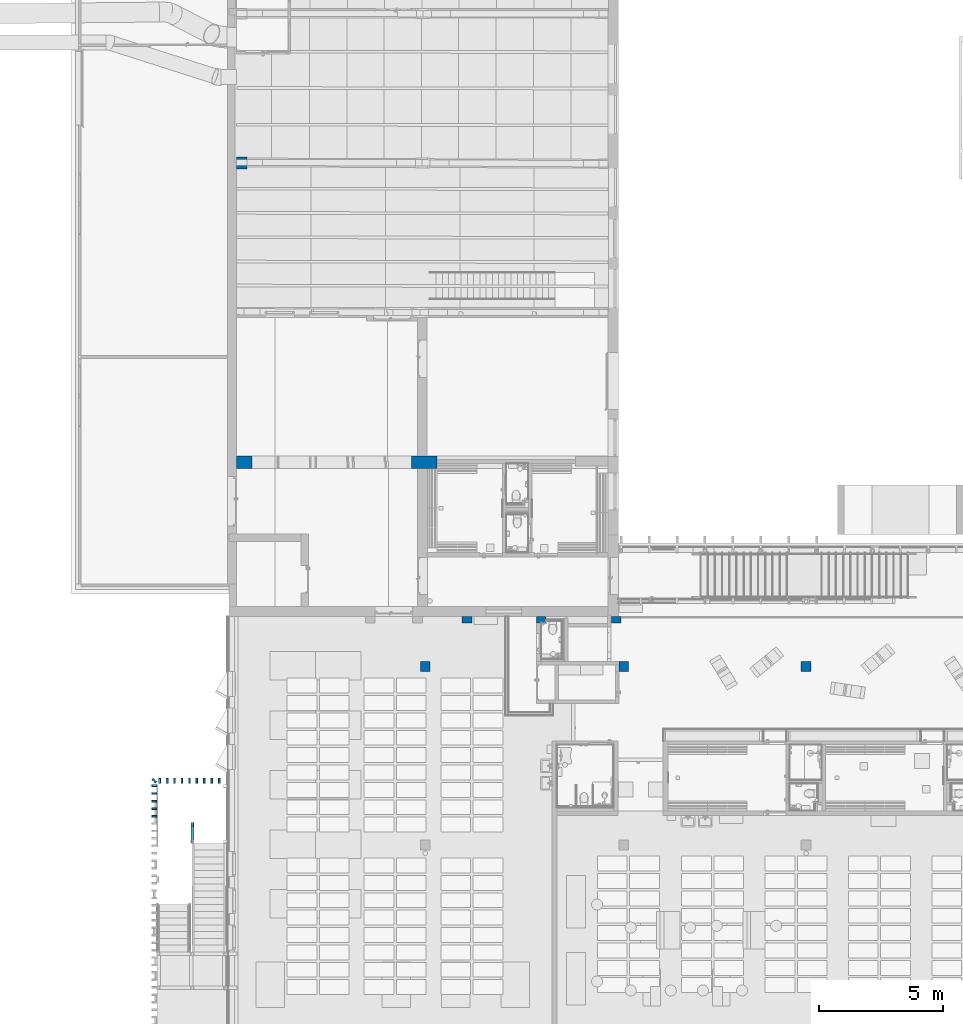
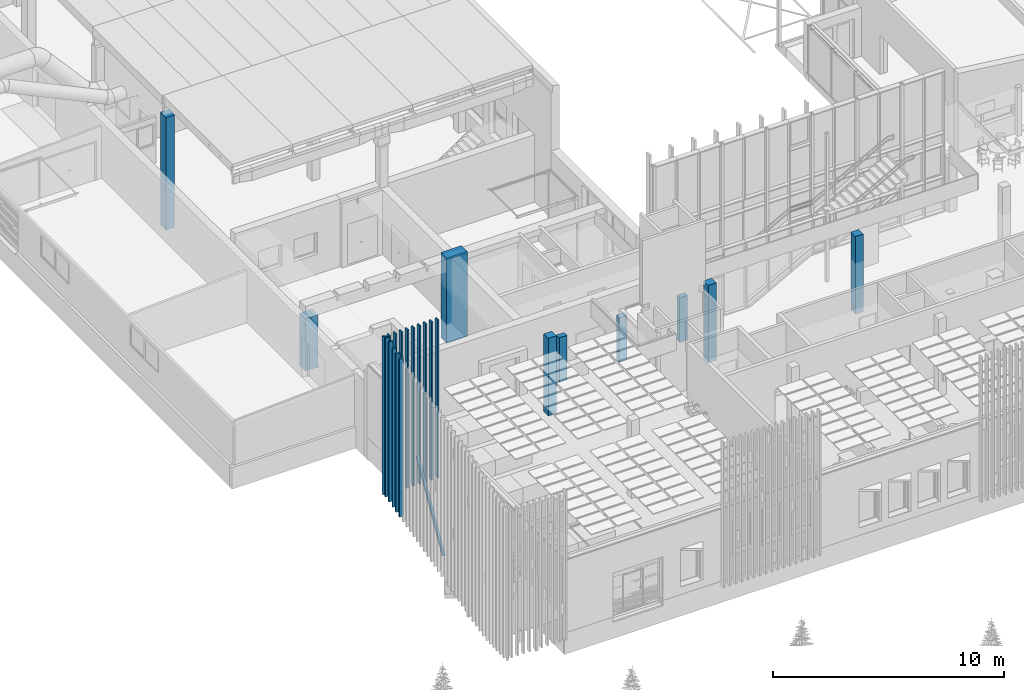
# One storey, part 14 of 301: 26 columns.
"""IFC2X3 building model written with IfcOpenShell, lengths in millimetres."""

from ifc_helpers import new_model, entity, si_unit, converted_unit, derived_unit, money_unit, direction, frame, origin_with_axes, place, context, subcontext, project, spatial, faceted_brep, material, type_object, element, save


model = new_model("IFC2X3")

# Units and contexts
model_context = context("Model", 3, precision=0.01, world=origin_with_axes(), true_north=direction((0.0, 1.0)))
body_context = subcontext(model_context, "Body", "Model", "MODEL_VIEW")
ifc_project = project(units=[si_unit("LENGTHUNIT", "METRE", prefix="MILLI"), si_unit("AREAUNIT", "SQUARE_METRE"), si_unit("VOLUMEUNIT", "CUBIC_METRE"), converted_unit("PLANEANGLEUNIT", "DEGREE", entity("IfcPlaneAngleMeasure", 0.0174532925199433), si_unit("PLANEANGLEUNIT", "RADIAN"), dimensions=[0, 0, 0, 0, 0, 0, 0]), money_unit("EUR"), converted_unit("TIMEUNIT", "Year", entity("IfcTimeMeasure", 31557600.0), si_unit("TIMEUNIT", "SECOND"), dimensions=[0, 0, 1, 0, 0, 0, 0]), si_unit("MASSUNIT", "GRAM", prefix="KILO"), si_unit("THERMODYNAMICTEMPERATUREUNIT", "DEGREE_CELSIUS"), si_unit("LUMINOUSINTENSITYUNIT", "LUMEN"), si_unit("ENERGYUNIT", "JOULE", prefix="MEGA"), derived_unit("THERMALCONDUCTANCEUNIT", [(si_unit("POWERUNIT", "WATT"), 1), (si_unit("LENGTHUNIT", "METRE"), -1), (si_unit("THERMODYNAMICTEMPERATUREUNIT", "KELVIN"), -1)]), derived_unit("SPECIFICHEATCAPACITYUNIT", [(si_unit("ENERGYUNIT", "JOULE"), 1), (si_unit("MASSUNIT", "GRAM", prefix="KILO"), -1), (si_unit("THERMODYNAMICTEMPERATUREUNIT", "KELVIN"), -1)]), derived_unit("MASSDENSITYUNIT", [(si_unit("MASSUNIT", "GRAM", prefix="KILO"), 1), (si_unit("VOLUMEUNIT", "CUBIC_METRE"), -1)])], contexts=[model_context])

# Site, building, storey
site_placement = place(None, frame((0.0, 0.0, 8650.0), z_axis=(0.0, 0.0, 1.0), x_axis=(1.0, 0.0, 0.0)))
site = spatial("IfcSite", under=ifc_project, at=site_placement, Name="43301:001:0844", CompositionType="ELEMENT")
building_placement = place(site_placement, origin_with_axes())
building = spatial("IfcBuilding", under=site, at=building_placement, Name="Kuressaare Ametikooli tuulikute mehaanikute õppekorpus", CompositionType="ELEMENT")
storey_placement = place(building_placement, origin_with_axes())
storey = spatial("IfcBuildingStorey", under=building, at=storey_placement, Name="1.korrus", CompositionType="ELEMENT", Elevation=0.0)

# Columns
ifc_material_1 = material(Name="GENEERILINE - KONSTRUKTRIOON")
column_type_1 = type_object("IfcColumnType", Name="GENEERILINE - KONSTRUKTRIOON 200 x 75", PredefinedType="NOTDEFINED")
column_1_placement = place(storey_placement, frame((84946.22662386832, 18966.94166850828, 2323.050805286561), z_axis=(0.0, 0.0, 1.0), x_axis=(-1.0, 0.0, 0.0)))
element("IfcColumn", 1, at=column_1_placement, inside=storey, type_object=column_type_1, material=ifc_material_1, Name="Varjestus_viltu", context=body_context, shape_type="Brep", body=[
    faceted_brep([(100.0000000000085, 37.50000000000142, 8376.794685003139), (100.0000000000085, 37.50000000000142, 0.0), (-99.99999999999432, 37.50000000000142, 0.0), (-99.99999999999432, 37.50000000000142, 8376.794685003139), (100.0000000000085, -37.49999999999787, 8370.233035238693), (100.0000000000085, -37.49999999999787, 0.0), (-99.99999999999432, -37.49999999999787, 0.0), (-99.99999999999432, -37.49999999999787, 8370.233035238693)], [[[0, 1, 2, 3]], [[4, 5, 1, 0]], [[2, 1, 5, 6]], [[3, 2, 6, 7]], [[4, 0, 3, 7]], [[7, 6, 5, 4]]]),
])
column_2_placement = place(storey_placement, frame((87561.75963245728, 19163.83737729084, 2284.330369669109), z_axis=(0.0, 0.0, 1.0), x_axis=(0.0, -1.0, 0.0)))
element("IfcColumn", 2, at=column_2_placement, inside=storey, type_object=column_type_1, material=ifc_material_1, Name="Varjestus_viltu", context=body_context, shape_type="Brep", body=[
    faceted_brep([(99.99999999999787, 37.49999999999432, 8370.61312005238), (99.99999999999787, 37.49999999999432, 0.0), (-100.0000000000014, 37.49999999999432, 0.0), (-100.0000000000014, 37.49999999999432, 8370.61312005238), (99.99999999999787, -37.50000000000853, 8364.051470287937), (99.99999999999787, -37.50000000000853, 0.0), (-100.0000000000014, -37.50000000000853, 0.0), (-100.0000000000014, -37.50000000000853, 8364.051470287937)], [[[0, 1, 2, 3]], [[4, 5, 1, 0]], [[2, 1, 5, 6]], [[3, 2, 6, 7]], [[4, 0, 3, 7]], [[7, 6, 5, 4]]]),
])
column_3_placement = place(storey_placement, frame((84946.22662386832, 17740.4180838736, 1989.578063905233), z_axis=(0.0, 0.0, 1.0), x_axis=(-1.0, 0.0, 0.0)))
element("IfcColumn", 3, at=column_3_placement, inside=storey, type_object=column_type_1, material=ifc_material_1, Name="Varjestus_viltu", context=body_context, shape_type="Brep", body=[
    faceted_brep([(100.0000000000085, -37.49999999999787, 8373.60033512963), (-99.99999999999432, -37.49999999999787, 8373.600327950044), (-99.99999999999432, -37.49999999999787, 0.0), (100.0000000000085, -37.49999999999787, 0.0), (-99.99999999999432, 37.50000000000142, 8353.50413851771), (100.0000000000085, 37.50000000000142, 8353.504145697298), (-99.99999999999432, 37.50000000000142, 0.0), (100.0000000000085, 37.50000000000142, 0.0)], [[[0, 1, 2, 3]], [[4, 1, 0, 5]], [[1, 4, 6, 2]], [[2, 6, 7, 3]], [[5, 0, 3, 7]], [[4, 5, 7, 6]]]),
])
column_4_placement = place(storey_placement, frame((84946.22662386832, 18040.4180838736, 2069.965056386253), z_axis=(0.0, 0.0, 1.0), x_axis=(-1.0, 0.0, 0.0)))
element("IfcColumn", 4, at=column_4_placement, inside=storey, type_object=column_type_1, material=ifc_material_1, Name="Varjestus_viltu", context=body_context, shape_type="Brep", body=[
    faceted_brep([(100.0000000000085, -37.49999999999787, 8373.598100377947), (-99.99999999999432, -37.49999999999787, 8373.598093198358), (-99.99999999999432, -37.49999999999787, 0.0), (100.0000000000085, -37.49999999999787, 0.0), (-99.99999999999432, 37.50000000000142, 8353.501903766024), (100.0000000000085, 37.50000000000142, 8353.50191094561), (-99.99999999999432, 37.50000000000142, 0.0), (100.0000000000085, 37.50000000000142, 0.0)], [[[0, 1, 2, 3]], [[4, 1, 0, 5]], [[1, 4, 6, 2]], [[2, 6, 7, 3]], [[5, 0, 3, 7]], [[4, 5, 7, 6]]]),
])
column_5_placement = place(storey_placement, frame((84946.22662386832, 18340.4180838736, 2150.352048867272), z_axis=(0.0, 0.0, 1.0), x_axis=(-1.0, 0.0, 0.0)))
element("IfcColumn", 5, at=column_5_placement, inside=storey, type_object=column_type_1, material=ifc_material_1, Name="Varjestus_viltu", context=body_context, shape_type="Brep", body=[
    faceted_brep([(100.0000000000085, -37.49999999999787, 8373.595865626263), (-99.99999999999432, -37.49999999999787, 8373.595858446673), (-99.99999999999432, -37.49999999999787, 0.0), (100.0000000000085, -37.49999999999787, 0.0), (-99.99999999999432, 37.50000000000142, 8353.499669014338), (100.0000000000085, 37.50000000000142, 8353.49967619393), (-99.99999999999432, 37.50000000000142, 0.0), (100.0000000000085, 37.50000000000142, 0.0)], [[[0, 1, 2, 3]], [[4, 1, 0, 5]], [[1, 4, 6, 2]], [[2, 6, 7, 3]], [[5, 0, 3, 7]], [[4, 5, 7, 6]]]),
])
for number, where, z_axis, x_axis in (
    (6, (85161.75963245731, 19163.83739147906, 2284.330369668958), (0.0, 0.0, 1.0), (0.0, -1.0, 0.0)),
    (7, (85461.7596324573, 19163.83739147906, 2284.330369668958), (0.0, 0.0, 1.0), (0.0, -1.0, 0.0)),
    (8, (85761.7596324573, 19163.8373366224, 2284.330369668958), (0.0, 0.0, 1.0), (0.0, -1.0, 0.0)),
    (9, (86061.7596324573, 19163.8373366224, 2284.330369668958), (0.0, 0.0, 1.0), (0.0, -1.0, 0.0)),
    (10, (86361.7596324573, 19163.8373366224, 2284.330369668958), (0.0, 0.0, 1.0), (0.0, -1.0, 0.0)),
):
    element("IfcColumn", number, at=place(storey_placement, frame(where, z_axis=z_axis, x_axis=x_axis)), inside=storey, type_object=column_type_1, material=ifc_material_1, Name="Varjestus_viltu", context=body_context, shape_type="Brep", body=[
        faceted_brep([(99.99999999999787, 37.49999999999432, 8370.613120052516), (99.99999999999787, 37.49999999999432, 0.0), (-100.0000000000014, 37.49999999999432, 0.0), (-100.0000000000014, 37.49999999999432, 8370.613120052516), (99.99999999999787, -37.50000000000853, 8364.051470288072), (99.99999999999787, -37.50000000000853, 0.0), (-100.0000000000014, -37.50000000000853, 0.0), (-100.0000000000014, -37.50000000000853, 8364.051470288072)], [[[0, 1, 2, 3]], [[4, 5, 1, 0]], [[2, 1, 5, 6]], [[3, 2, 6, 7]], [[4, 0, 3, 7]], [[7, 6, 5, 4]]]),
    ])
for number, where, z_axis, x_axis in (
    (11, (86661.7596324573, 19163.83738634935, 2284.330369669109), (0.0, 0.0, 1.0), (0.0, -1.0, 0.0)),
    (12, (86961.75963245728, 19163.83738634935, 2284.330369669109), (0.0, 0.0, 1.0), (0.0, -1.0, 0.0)),
):
    element("IfcColumn", number, at=place(storey_placement, frame(where, z_axis=z_axis, x_axis=x_axis)), inside=storey, type_object=column_type_1, material=ifc_material_1, Name="Varjestus_viltu", context=body_context, shape_type="Brep", body=[
        faceted_brep([(99.99999999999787, 37.49999999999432, 8370.61312005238), (99.99999999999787, 37.49999999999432, 0.0), (-100.0000000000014, 37.49999999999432, 0.0), (-100.0000000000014, 37.49999999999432, 8370.61312005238), (99.99999999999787, -37.50000000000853, 8364.051470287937), (99.99999999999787, -37.50000000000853, 0.0), (-100.0000000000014, -37.50000000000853, 0.0), (-100.0000000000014, -37.50000000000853, 8364.051470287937)], [[[0, 1, 2, 3]], [[4, 5, 1, 0]], [[2, 1, 5, 6]], [[3, 2, 6, 7]], [[4, 0, 3, 7]], [[7, 6, 5, 4]]]),
    ])
column_6_placement = place(storey_placement, frame((84943.45380628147, 19166.61020906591, 2284.330369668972), z_axis=(0.0, 0.0, 1.0), x_axis=(0.7071067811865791, -0.7071067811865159, 0.0)))
element("IfcColumn", 13, at=column_6_placement, inside=storey, type_object=column_type_1, material=ifc_material_1, Name="Varjestus_viltu", context=body_context, shape_type="Brep", body=[
    faceted_brep([(99.99999999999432, 37.49999999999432, 8370.61311241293), (99.99999999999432, 37.49999999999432, 0.0), (-100.0000000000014, 37.49999999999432, 0.0), (-100.0000000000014, 37.49999999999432, 8370.61311241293), (100.0000000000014, -37.49999999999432, 8364.051462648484), (100.0000000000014, -37.49999999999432, 0.0), (-100.0000000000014, -37.49999999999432, 0.0), (-100.0000000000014, -37.49999999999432, 8364.051462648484)], [[[0, 1, 2, 3]], [[4, 5, 1, 0]], [[2, 1, 5, 6]], [[3, 2, 6, 7]], [[4, 0, 3, 7]], [[7, 6, 5, 4]]]),
])
column_7_placement = place(storey_placement, frame((87261.75963245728, 19163.8373818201, 2284.330369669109), z_axis=(0.0, 0.0, 1.0), x_axis=(0.0, -1.0, 0.0)))
element("IfcColumn", 14, at=column_7_placement, inside=storey, type_object=column_type_1, material=ifc_material_1, Name="Varjestus_viltu", context=body_context, shape_type="Brep", body=[
    faceted_brep([(99.99999999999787, 37.49999999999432, 8370.61312005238), (99.99999999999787, 37.49999999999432, 0.0), (-100.0000000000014, 37.49999999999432, 0.0), (-100.0000000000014, 37.49999999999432, 8370.61312005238), (99.99999999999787, -37.50000000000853, 8364.051470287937), (99.99999999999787, -37.50000000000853, 0.0), (-100.0000000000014, -37.50000000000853, 0.0), (-100.0000000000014, -37.50000000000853, 8364.051470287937)], [[[0, 1, 2, 3]], [[4, 5, 1, 0]], [[2, 1, 5, 6]], [[3, 2, 6, 7]], [[4, 0, 3, 7]], [[7, 6, 5, 4]]]),
])
column_8_placement = place(storey_placement, frame((84946.22662386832, 18653.67987619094, 2236.232087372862), z_axis=(0.0, 0.0, 1.0), x_axis=(-1.0, 0.0, 0.0)))
element("IfcColumn", 15, at=column_8_placement, inside=storey, type_object=column_type_1, material=ifc_material_1, Name="Varjestus_viltu", context=body_context, shape_type="Brep", body=[
    faceted_brep([(100.0000000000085, 37.50000000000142, 8463.613402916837), (100.0000000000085, 37.50000000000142, 0.0), (-99.99999999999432, 37.50000000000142, 0.0), (-99.99999999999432, 37.50000000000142, 8463.613402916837), (100.0000000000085, -37.49999999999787, 8457.051753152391), (100.0000000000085, -37.49999999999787, 0.0), (-99.99999999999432, -37.49999999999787, 0.0), (-99.99999999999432, -37.49999999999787, 8457.051753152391)], [[[0, 1, 2, 3]], [[4, 5, 1, 0]], [[2, 1, 5, 6]], [[3, 2, 6, 7]], [[4, 0, 3, 7]], [[7, 6, 5, 4]]]),
])
ifc_material_2 = material(Name="Puit - Liimpuit")
column_type_2 = type_object("IfcColumnType", Name="Puit - Liimpuit 400 x 400", PredefinedType="NOTDEFINED")
for number, where, z_axis, x_axis in (
    (16, (103867.9521417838, 23774.0689239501, 0.0), (0.0, 0.0, 1.0), (1.0, 0.0, 0.0)),
    (17, (111217.9493746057, 23774.0689239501, 0.0), (0.0, 0.0, 1.0), (1.0, 0.0, 0.0)),
    (18, (95868.06835714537, 23774.0689239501, 0.0), (0.0, 0.0, 1.0), (1.0, 0.0, 0.0)),
):
    element("IfcColumn", number, at=place(storey_placement, frame(where, z_axis=z_axis, x_axis=x_axis)), inside=storey, type_object=column_type_2, material=ifc_material_2, context=body_context, shape_type="Brep", body=[
        faceted_brep([(-200.0000000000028, -199.9999999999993, 4099.999999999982), (-200.0000000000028, -199.9999999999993, 0.0), (200.0000000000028, -199.9999999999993, 0.0), (200.0000000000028, -199.9999999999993, 4099.999999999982), (-200.0000000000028, 199.9999999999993, 4099.999999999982), (-200.0000000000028, 199.9999999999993, 0.0), (200.0000000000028, 199.9999999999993, 0.0), (200.0000000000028, 199.9999999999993, 4099.999999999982)], [[[0, 1, 2, 3]], [[4, 5, 1, 0]], [[2, 1, 5, 6]], [[3, 2, 6, 7]], [[4, 0, 3, 7]], [[7, 6, 5, 4]]]),
    ])
column_type_3 = type_object("IfcColumnType", Name="GENEERILINE - KONSTRUKTRIOON 1030 x 500", PredefinedType="NOTDEFINED")
column_9_placement = place(storey_placement, frame((95831.58402471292, 32004.84561545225, -1000.0), z_axis=(0.0, 0.0, 1.0), x_axis=(-1.0, 0.0, 0.0)))
element("IfcColumn", 19, at=column_9_placement, inside=storey, type_object=column_type_3, material=ifc_material_1, context=body_context, shape_type="Brep", body=[
    faceted_brep([(-515.0000000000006, -250.0, 4500.0), (-515.0000000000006, -250.0, 0.0), (515.0000000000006, -250.0, 0.0), (515.0000000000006, -250.0, 4500.0), (-515.0000000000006, 250.0000000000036, 4500.0), (-515.0000000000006, 250.0000000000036, 0.0), (515.0000000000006, 250.0000000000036, 0.0), (515.0000000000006, 250.0000000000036, 4500.0)], [[[0, 1, 2, 3]], [[4, 5, 1, 0]], [[2, 1, 5, 6]], [[3, 2, 6, 7]], [[4, 0, 3, 7]], [[7, 6, 5, 4]]]),
])
column_10_placement = place(storey_placement, frame((95831.58402471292, 32004.84561545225, -1000.0), z_axis=(0.0, 0.0, 1.0), x_axis=(-1.0, 0.0, 0.0)))
element("IfcColumn", 20, at=column_10_placement, inside=storey, type_object=column_type_3, material=ifc_material_1, context=body_context, shape_type="Brep", body=[
    faceted_brep([(-515.0000000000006, -250.0, 4410.0), (-515.0000000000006, -250.0, 0.0), (515.0000000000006, -250.0, 0.0), (515.0000000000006, -250.0, 4410.0), (-515.0000000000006, 250.0000000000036, 4410.0), (-515.0000000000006, 250.0000000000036, 0.0), (515.0000000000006, 250.0000000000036, 0.0), (515.0000000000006, 250.0000000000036, 4410.0)], [[[0, 1, 2, 3]], [[4, 5, 1, 0]], [[2, 1, 5, 6]], [[3, 2, 6, 7]], [[4, 0, 3, 7]], [[7, 6, 5, 4]]]),
])
ifc_material_3 = material(Name="STEEL/S355")
column_type_4 = type_object("IfcColumnType", Name="IFC Footing Extruded", PredefinedType="NOTDEFINED")
column_11_placement = place(storey_placement, frame((86476.2273876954, 16713.83806945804, 0.0), z_axis=(0.0, 0.0, 1.0), x_axis=(0.0, 1.0, 0.0)))
element("IfcColumn", 21, at=column_11_placement, inside=storey, type_object=column_type_4, material=ifc_material_3, Name="TERAS_POST", context=body_context, shape_type="Brep", body=[
    faceted_brep([(2314.540634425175, -60.00000000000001, 3865.604115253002), (2210.773077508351, -59.99999999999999, 3925.872632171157), (-51.88283077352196, -59.99999999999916, 30.13589013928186), (51.88472614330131, -59.99999999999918, -30.13262677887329), (2314.540634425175, 59.99999999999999, 3865.604115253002), (2210.773077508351, 60.00000000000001, 3925.872632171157), (2310.216986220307, -55.00000000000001, 3868.115303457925), (2215.096725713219, -54.99999999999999, 3923.361443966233), (2215.096725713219, 55.00000000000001, 3923.361443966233), (2310.216986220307, 54.99999999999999, 3868.115303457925), (-51.88283077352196, 60.00000000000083, 30.13589013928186), (51.88472614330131, 60.00000000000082, -30.13262677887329), (47.56107793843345, -54.99999999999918, -27.62143857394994), (47.56107793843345, 55.00000000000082, -27.62143857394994), (-47.5591825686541, 55.00000000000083, 27.62470193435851), (-47.5591825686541, -54.99999999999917, 27.62470193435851)], [[[0, 1, 2, 3]], [[0, 4, 5, 1], [6, 7, 8, 9]], [[1, 5, 10, 2]], [[3, 2, 10, 11], [12, 13, 14, 15]], [[4, 0, 3, 11]], [[5, 4, 11, 10]], [[7, 6, 12, 15]], [[8, 7, 15, 14]], [[9, 8, 14, 13]], [[6, 9, 13, 12]]]),
])
column_type_5 = type_object("IfcColumnType", Name="GENEERILINE - KONSTRUKTRIOON 620 x 497", PredefinedType="NOTDEFINED")
column_12_placement = place(storey_placement, frame((88568.75644683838, 32009.97119569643, 0.0), z_axis=(0.0, 0.0, 1.0), x_axis=(-1.0, 0.0, 0.0)))
element("IfcColumn", 22, at=column_12_placement, inside=storey, type_object=column_type_5, material=ifc_material_1, context=body_context, shape_type="Brep", body=[
    faceted_brep([(-310.0000000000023, -248.7036640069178, 2759.999999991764), (-310.0000000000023, -248.7036640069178, 0.0), (310.0000000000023, -248.7036640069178, 0.0), (310.0000000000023, -248.7036640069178, 2759.999999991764), (-310.0000000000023, 248.7036640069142, 2759.999999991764), (-310.0000000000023, 248.7036640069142, 0.0), (310.0000000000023, 248.7036640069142, 0.0), (310.0000000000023, 248.7036640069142, 2759.999999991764)], [[[0, 1, 2, 3]], [[4, 5, 1, 0]], [[2, 1, 5, 6]], [[3, 2, 6, 7]], [[4, 0, 3, 7]], [[7, 6, 5, 4]]]),
])
column_type_6 = type_object("IfcColumnType", Name="GENEERILINE - KONSTRUKTRIOON 391 x 250", PredefinedType="NOTDEFINED")
for number, where, z_axis, x_axis in (
    (23, (97545.98558656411, 25658.06817304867, 0.0), (0.0, 0.0, 1.0), (-1.0, 0.0, 0.0)),
    (24, (100540.9855865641, 25658.06817304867, 0.0), (0.0, 0.0, 1.0), (-1.0, 0.0, 0.0)),
):
    element("IfcColumn", number, at=place(storey_placement, frame(where, z_axis=z_axis, x_axis=x_axis)), inside=storey, type_object=column_type_6, material=ifc_material_1, context=body_context, shape_type="Brep", body=[
        faceted_brep([(-195.3308951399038, -125.0007509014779, 2350.0), (-195.3308951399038, -125.0007509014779, 0.0), (195.3308951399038, -125.0007509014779, 0.0), (195.3308951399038, -125.0007509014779, 2350.0), (-195.3308951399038, 125.0007509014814, 2350.0), (-195.3308951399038, 125.0007509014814, 0.0), (195.3308951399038, 125.0007509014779, 0.0), (195.3308951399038, 125.0007509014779, 2350.0)], [[[0, 1, 2, 3]], [[4, 5, 1, 0]], [[2, 1, 5, 6]], [[3, 2, 6, 7]], [[4, 0, 3, 7]], [[7, 6, 5, 4]]]),
    ])
column_13_placement = place(storey_placement, frame((103560.9855865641, 25658.06817304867, 0.0), z_axis=(0.0, 0.0, 1.0), x_axis=(-1.0, 0.0, 0.0)))
element("IfcColumn", 25, at=column_13_placement, inside=storey, type_object=column_type_6, material=ifc_material_1, context=body_context, shape_type="Brep", body=[
    faceted_brep([(-195.3308951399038, -125.0007509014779, 2350.0), (-195.3308951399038, -125.0007509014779, 0.0), (195.3308951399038, -125.0007509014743, 0.0), (195.3308951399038, -125.0007509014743, 2350.0), (-195.3308951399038, 125.0007509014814, 2350.0), (-195.3308951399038, 125.0007509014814, 0.0), (195.3308951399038, 125.0007509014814, 0.0), (195.3308951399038, 125.0007509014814, 2350.0)], [[[0, 1, 2, 3]], [[4, 5, 1, 0]], [[2, 1, 5, 6]], [[3, 2, 6, 7]], [[4, 0, 3, 7]], [[7, 6, 5, 4]]]),
])
column_type_7 = type_object("IfcColumnType", Name="GENEERILINE - KONSTRUKTRIOON 420 x 475", PredefinedType="NOTDEFINED")
column_14_placement = place(storey_placement, frame((88468.75644683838, 44064.3118462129, 130.0), z_axis=(0.0, 0.0, 1.0), x_axis=(-1.0, 0.0, 0.0)))
element("IfcColumn", 26, at=column_14_placement, inside=storey, type_object=column_type_7, material=ifc_material_1, context=body_context, shape_type="Brep", body=[
    faceted_brep([(-209.9999999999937, -237.4999999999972, 5950.0), (-209.9999999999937, -237.4999999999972, 0.0), (210.000000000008, -237.4999999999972, 0.0), (210.000000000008, -237.4999999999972, 5950.0), (-209.9999999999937, 237.5000000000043, 5950.0), (-209.9999999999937, 237.5000000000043, 0.0), (210.000000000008, 237.5000000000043, 0.0), (210.000000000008, 237.5000000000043, 5950.0)], [[[0, 1, 2, 3]], [[4, 5, 1, 0]], [[2, 1, 5, 6]], [[3, 2, 6, 7]], [[4, 0, 3, 7]], [[7, 6, 5, 4]]]),
])

save(model, "model.ifc")
